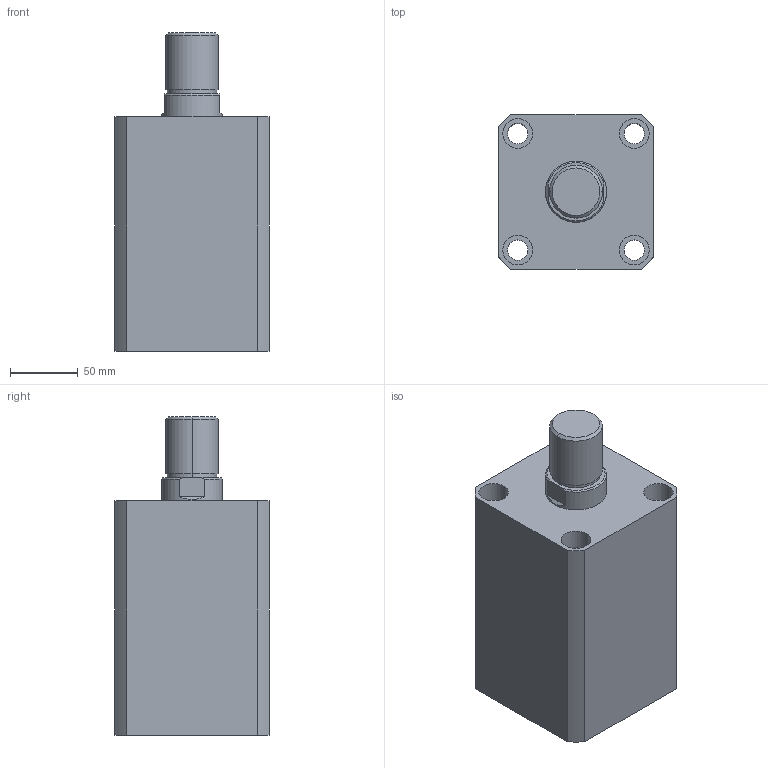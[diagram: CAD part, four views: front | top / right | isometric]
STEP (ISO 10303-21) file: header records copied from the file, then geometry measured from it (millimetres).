
FILE_DESCRIPTION (( 'STEP AP203' ), '1' );
FILE_NAME ('HTB-SDMB80-95W.STEP', '2019-10-09T06:14:34', ( '微软用户' ), ( '微软中国' ), 'SwSTEP 2.0', 'SolidWorks 2012', '' );
FILE_SCHEMA (( 'CONFIG_CONTROL_DESIGN' ));
Length unit declared in the file: millimetre
Products named in the file (3): HTB-SDMB80-95掛极; HTB-SDMB80-95W活塞杆; HTB-SDMB80-95W
Assembly tree (2 placements, depth 2):
  HTB-SDMB80-95W
    HTB-SDMB80-95掛极
    HTB-SDMB80-95W活塞杆
Bounding box: 114 x 114 x 235 mm (x, y, z)
Volume: 1826648.3 mm3; surface area: 222011.6 mm2
Topology: 2 solids, 2 shells, 141 faces, 337 edges, 222 vertices
Faces by surface type: plane 67, cylinder 48, bspline 16, torus 6, cone 4
Entity records: 5180 total; most frequent: CARTESIAN_POINT 1597, ORIENTED_EDGE 674, DIRECTION 669, EDGE_CURVE 337, AXIS2_PLACEMENT_3D 242, VERTEX_POINT 222, VECTOR 185, LINE 185
